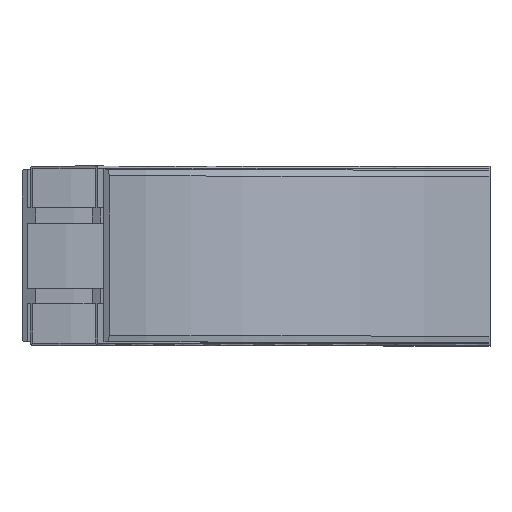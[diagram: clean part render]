
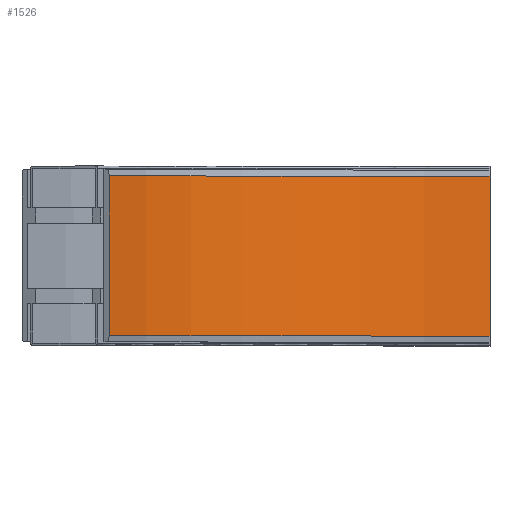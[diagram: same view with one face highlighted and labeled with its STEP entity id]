
A CAD part, top view. The second image highlights one B-rep face of the part: STEP entity #1526.
In plain terms, the highlighted cylindrical face has radius 357.5 mm (diameter 715 mm), a partial arc.
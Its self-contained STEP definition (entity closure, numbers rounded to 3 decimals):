
#80=CYLINDRICAL_SURFACE('',#1643,357.5);
#149=FACE_OUTER_BOUND('',#236,.T.);
#236=EDGE_LOOP('',(#1052,#1053,#1054,#1055));
#323=CIRCLE('',#1633,357.5);
#328=CIRCLE('',#1642,357.5);
#400=LINE('',#2215,#526);
#401=LINE('',#2216,#527);
#526=VECTOR('',#1808,10.);
#527=VECTOR('',#1809,10.);
#643=VERTEX_POINT('',#2183);
#644=VERTEX_POINT('',#2185);
#652=VERTEX_POINT('',#2209);
#653=VERTEX_POINT('',#2211);
#799=EDGE_CURVE('',#643,#644,#323,.T.);
#813=EDGE_CURVE('',#652,#653,#328,.T.);
#814=EDGE_CURVE('',#643,#652,#400,.T.);
#815=EDGE_CURVE('',#644,#653,#401,.T.);
#1052=ORIENTED_EDGE('',*,*,#814,.T.);
#1053=ORIENTED_EDGE('',*,*,#813,.T.);
#1054=ORIENTED_EDGE('',*,*,#815,.F.);
#1055=ORIENTED_EDGE('',*,*,#799,.F.);
#1526=ADVANCED_FACE('',(#149),#80,.F.);
#1633=AXIS2_PLACEMENT_3D('',#2186,#1777,#1778);
#1642=AXIS2_PLACEMENT_3D('',#2213,#1804,#1805);
#1643=AXIS2_PLACEMENT_3D('',#2214,#1806,#1807);
#1777=DIRECTION('center_axis',(0.,1.,0.));
#1778=DIRECTION('ref_axis',(0.,0.,-1.));
#1804=DIRECTION('center_axis',(0.,1.,0.));
#1805=DIRECTION('ref_axis',(0.,0.,-1.));
#1806=DIRECTION('center_axis',(0.,1.,0.));
#1807=DIRECTION('ref_axis',(0.,0.,-1.));
#1808=DIRECTION('',(0.,1.,0.));
#1809=DIRECTION('',(0.,1.,0.));
#2183=CARTESIAN_POINT('',(0.,-65.,42.5));
#2185=CARTESIAN_POINT('',(-309.604,-65.,221.25));
#2186=CARTESIAN_POINT('Origin',(0.,-65.,
400.));
#2209=CARTESIAN_POINT('',(0.,65.,42.5));
#2211=CARTESIAN_POINT('',(-309.604,65.,221.25));
#2213=CARTESIAN_POINT('Origin',(0.,65.,
400.));
#2214=CARTESIAN_POINT('Origin',(0.,0.,400.));
#2215=CARTESIAN_POINT('',(0.,-65.,42.5));
#2216=CARTESIAN_POINT('',(-309.604,-65.,221.25));
